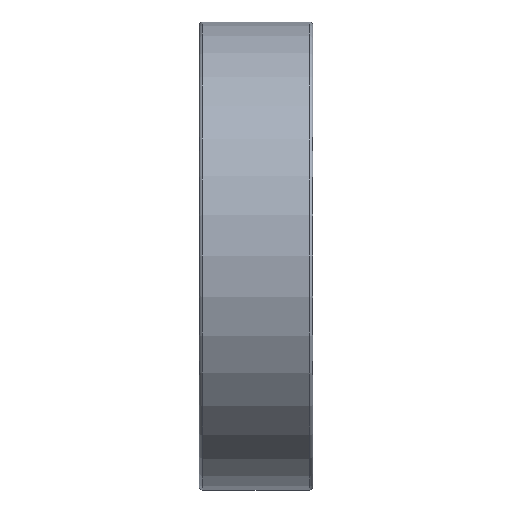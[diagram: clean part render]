
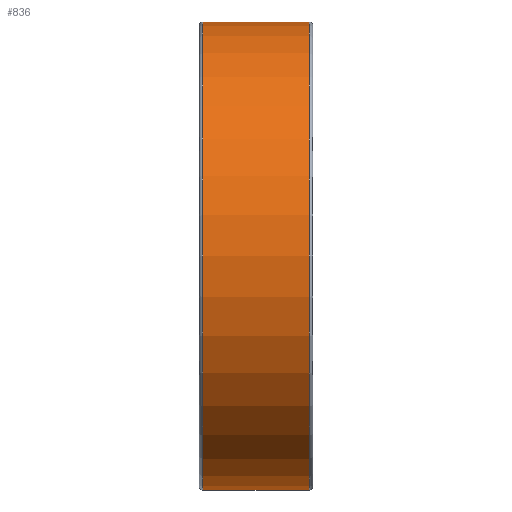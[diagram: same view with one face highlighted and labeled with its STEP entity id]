
A CAD part, front view. The second image highlights one B-rep face of the part: STEP entity #836.
In plain terms, the highlighted cylindrical face has radius 18.5 mm (diameter 37 mm), a full revolution.
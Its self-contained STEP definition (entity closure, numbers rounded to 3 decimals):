
#46=LINE('',#1607,#52);
#52=VECTOR('',#1310,18.5);
#58=CYLINDRICAL_SURFACE('',#1013,18.5);
#140=FACE_OUTER_BOUND('',#208,.T.);
#208=EDGE_LOOP('',(#746,#747,#748,#749,#750,#751));
#314=CIRCLE('',#1008,18.5);
#315=CIRCLE('',#1009,18.5);
#318=CIRCLE('',#1014,18.5);
#319=CIRCLE('',#1015,18.5);
#440=VERTEX_POINT('',#1595);
#441=VERTEX_POINT('',#1596);
#443=VERTEX_POINT('',#1604);
#444=VERTEX_POINT('',#1605);
#545=EDGE_CURVE('',#440,#441,#314,.T.);
#546=EDGE_CURVE('',#441,#440,#315,.T.);
#549=EDGE_CURVE('',#443,#444,#318,.T.);
#550=EDGE_CURVE('',#443,#441,#46,.T.);
#551=EDGE_CURVE('',#444,#443,#319,.T.);
#746=ORIENTED_EDGE('',*,*,#549,.F.);
#747=ORIENTED_EDGE('',*,*,#550,.T.);
#748=ORIENTED_EDGE('',*,*,#545,.F.);
#749=ORIENTED_EDGE('',*,*,#546,.F.);
#750=ORIENTED_EDGE('',*,*,#550,.F.);
#751=ORIENTED_EDGE('',*,*,#551,.F.);
#836=ADVANCED_FACE('',(#140),#58,.T.);
#1008=AXIS2_PLACEMENT_3D('',#1597,#1296,#1297);
#1009=AXIS2_PLACEMENT_3D('',#1598,#1298,#1299);
#1013=AXIS2_PLACEMENT_3D('',#1603,#1306,#1307);
#1014=AXIS2_PLACEMENT_3D('',#1606,#1308,#1309);
#1015=AXIS2_PLACEMENT_3D('',#1608,#1311,#1312);
#1296=DIRECTION('center_axis',(-1.,0.,0.));
#1297=DIRECTION('ref_axis',(0.,-1.,0.));
#1298=DIRECTION('center_axis',(-1.,0.,0.));
#1299=DIRECTION('ref_axis',(0.,-1.,0.));
#1306=DIRECTION('center_axis',(1.,0.,0.));
#1307=DIRECTION('ref_axis',(0.,1.,0.));
#1308=DIRECTION('center_axis',(1.,0.,0.));
#1309=DIRECTION('ref_axis',(0.,-1.,0.));
#1310=DIRECTION('',(-1.,0.,0.));
#1311=DIRECTION('center_axis',(1.,0.,0.));
#1312=DIRECTION('ref_axis',(0.,-1.,0.));
#1595=CARTESIAN_POINT('',(0.3,0.,18.5));
#1596=CARTESIAN_POINT('',(0.3,-18.5,0.));
#1597=CARTESIAN_POINT('Origin',(0.3,0.,0.));
#1598=CARTESIAN_POINT('Origin',(0.3,0.,0.));
#1603=CARTESIAN_POINT('Origin',(4.5,0.,0.));
#1604=CARTESIAN_POINT('',(8.7,-18.5,0.));
#1605=CARTESIAN_POINT('',(8.7,0.,18.5));
#1606=CARTESIAN_POINT('Origin',(8.7,0.,0.));
#1607=CARTESIAN_POINT('',(4.5,-18.5,0.));
#1608=CARTESIAN_POINT('Origin',(8.7,0.,0.));
